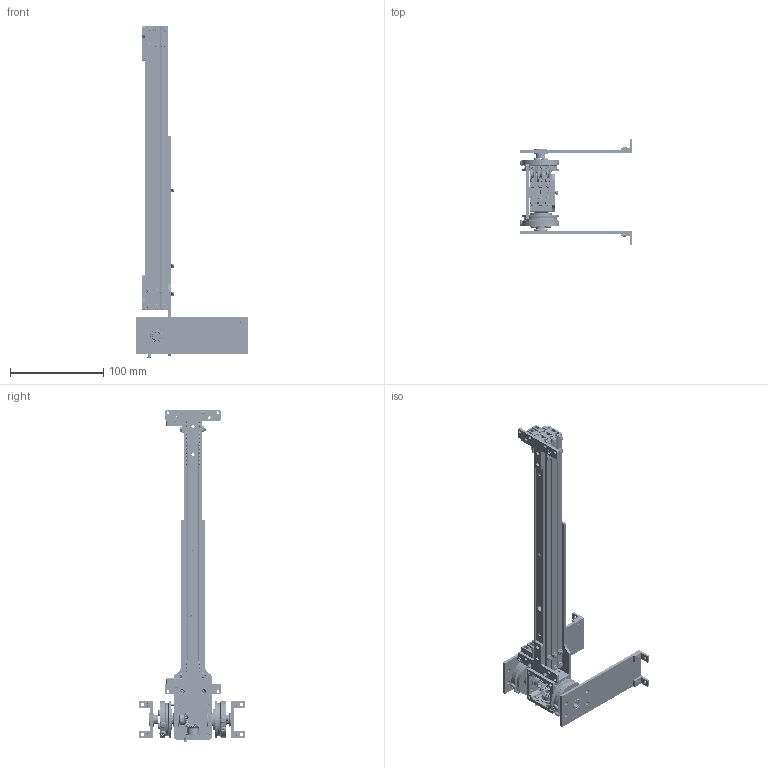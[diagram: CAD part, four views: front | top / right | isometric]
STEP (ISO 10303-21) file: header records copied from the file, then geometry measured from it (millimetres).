
FILE_DESCRIPTION( ('This file contains a STEP AP42 implementation' ,'as created by ZW3D STEP Interface translator.') ,'2;1' );
FILE_NAME( 'DemoCrane2.stp' ,'24 212.153730', (''), ('ZWCAD Software Co.'), 'Version 1.0', 'ZW3D to STEP translator', '' );
FILE_SCHEMA(('AUTOMOTIVE_DESIGN { 1 0 10303 214 1 1 1 1 }'));
Length unit declared in the file: millimetre
Products named in the file (39): 0; DemoContinuousRigging_Crane; BL-300C-2M; OuterSlide300C; StopperScrew; BallBearing; PulleyModule; VPulley; NoHeadScrew001; PulleyBracketV4; PulleyModule1; M3; M2; InnerSlide300C; BL-300C-2M1; PulleyModule2; PulleyModule3; BL-300C-2M2; PulleyModule4; PulleyModule5; M4-6-5.5; StringHolder; SlideHolder; M4-8-5.5; SlideTower; OneHoleL_Beam; BL-GearBoxWithGears; M0.7T22BevelGear; 1611-0514-4008-Hex; BL-GearBox3; 1611-0514-0006-BB6; Pulley1; BL-7mmHexAdapter; 8mmSpace1mm; M4Button; 8mmSpacer5mm; M3Waher; M3SelfTapping; EyeBolt
Assembly tree (229 placements, depth 4):
  0
  DemoContinuousRigging_Crane
    BL-300C-2M
      OuterSlide300C
      StopperScrew  x8
      BallBearing  x30
      PulleyModule
        VPulley
        NoHeadScrew001
        PulleyBracketV4
      PulleyModule1
        VPulley
        NoHeadScrew001
        PulleyBracketV4
      M3  x8
      M2  x2
      InnerSlide300C
    BL-300C-2M1
      OuterSlide300C
      StopperScrew  x8
      BallBearing  x30
      PulleyModule2
        VPulley
        NoHeadScrew001
        PulleyBracketV4
      PulleyModule3
        VPulley
        NoHeadScrew001
        PulleyBracketV4
      M3  x8
      M2  x2
      InnerSlide300C
    BL-300C-2M2
      OuterSlide300C
      StopperScrew  x8
      BallBearing  x30
      PulleyModule4
        VPulley
        NoHeadScrew001
        PulleyBracketV4
      PulleyModule5
        VPulley
        NoHeadScrew001
        PulleyBracketV4
      M3  x8
      M2  x2
      InnerSlide300C
    M4-6-5.5  x10
    StringHolder  x2
    SlideHolder
    M4-8-5.5  x3
    SlideTower  x2
    OneHoleL_Beam  x4
    BL-GearBoxWithGears
      M0.7T22BevelGear
      1611-0514-4008-Hex  x2
      BL-GearBox3
      1611-0514-0006-BB6
      M4-8-5.5
    1611-0514-4008-Hex  x4
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Bounding box: 120.28 x 114 x 355.75 mm (x, y, z)
Volume: 200045.7 mm3; surface area: 204175.8 mm2
Topology: 256 solids, 262 shells, 8737 faces, 23327 edges, 14872 vertices
Faces by surface type: cylinder 3496, bspline 2221, plane 1349, cone 1246, torus 245, sphere 180
Full cylindrical faces by diameter (mm): 2 x100, 2.4 x4, 2.5 x228, 3 x326, 3.05 x12, 3.3 x206, 3.5 x74, 3.6 x193, 4 x158, 6 x12, 6.8 x8, 7 x1, 8 x4, 10 x6, 12.232 x2, 14 x5, 23 x2, 35.02 x2, 40 x4
Entity records: 435696 total; most frequent: CARTESIAN_POINT 356338, ORIENTED_EDGE 20996, EDGE_CURVE 10497, DIRECTION 8899, VERTEX_POINT 6818, B_SPLINE_CURVE_WITH_KNOTS 4490, EDGE_LOOP 4005, FACE_OUTER_BOUND 3741
